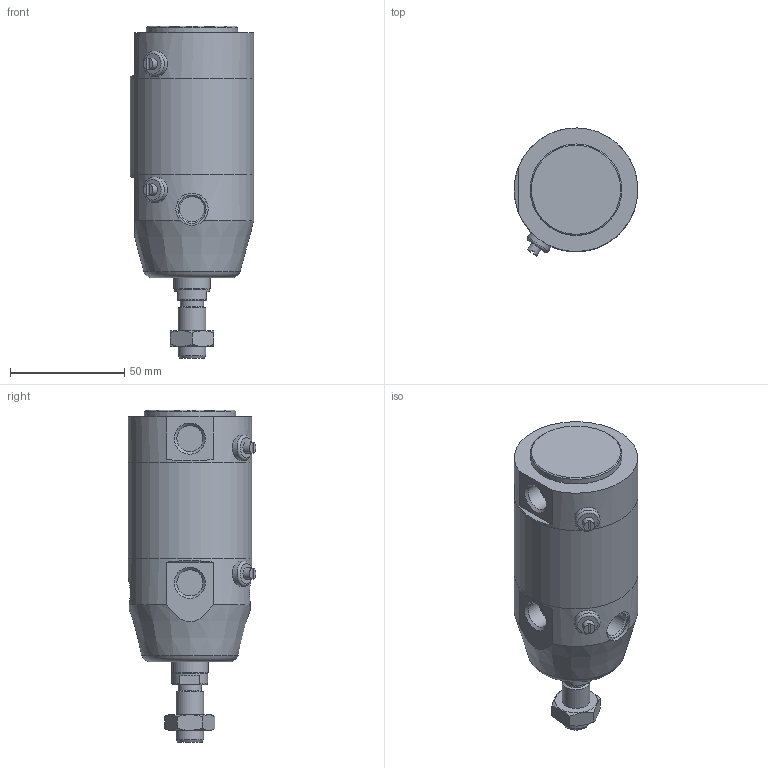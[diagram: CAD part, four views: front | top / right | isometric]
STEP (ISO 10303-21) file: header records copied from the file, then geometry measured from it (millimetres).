
FILE_DESCRIPTION(/* description */ (''),/* implementation_level */ '2;1');
FILE_NAME(/* name */ 'I:\Area Tecnica\Documenti\A-Manieri\_Inventor\12X\12X#E_###_####_#_#\12XBE_050_0000_#_#.stp',/* time_stamp */ '2015-05-08T13:57:38+02:00',/* author */ ('maniean1'),/* organization */ ('Pneumax S.p.A.'),/* preprocessor_version */ 'ST-DEVELOPER v15.2',/* originating_system */ 'Autodesk Inventor 2014',/* authorisation */ '');
FILE_SCHEMA (('AUTOMOTIVE_DESIGN { 1 0 10303 214 3 1 1 }'));
Length unit declared in the file: millimetre
Products named in the file (6): C1250_619-0000; 12X50_623; S12X50_0000; 12X_50_11; 12X50_612; 12XBE_050_0000_#_#
Bounding box: 54 x 55.88 x 145 mm (x, y, z)
Volume: 239410.1 mm3; surface area: 51900.6 mm2
Topology: 5 solids, 5 shells, 83 faces, 174 edges, 112 vertices
Faces by surface type: plane 45, cylinder 22, cone 13, torus 3
Full cylindrical faces by diameter (mm): 5 x2, 10.2 x1, 10.9 x2, 11 x2, 11.4 x2, 12 x2, 14 x1, 14.1 x2, 15.6 x1, 16 x1, 40 x1, 50 x2, 54 x3
Entity records: 2203 total; most frequent: CARTESIAN_POINT 508, DIRECTION 359, ORIENTED_EDGE 254, AXIS2_PLACEMENT_3D 161, EDGE_LOOP 136, EDGE_CURVE 127, VERTEX_POINT 101, ADVANCED_FACE 83
